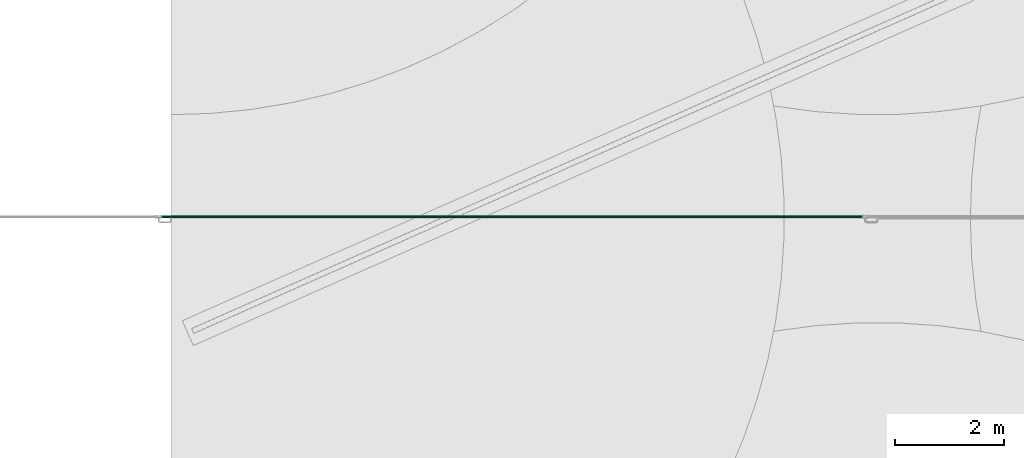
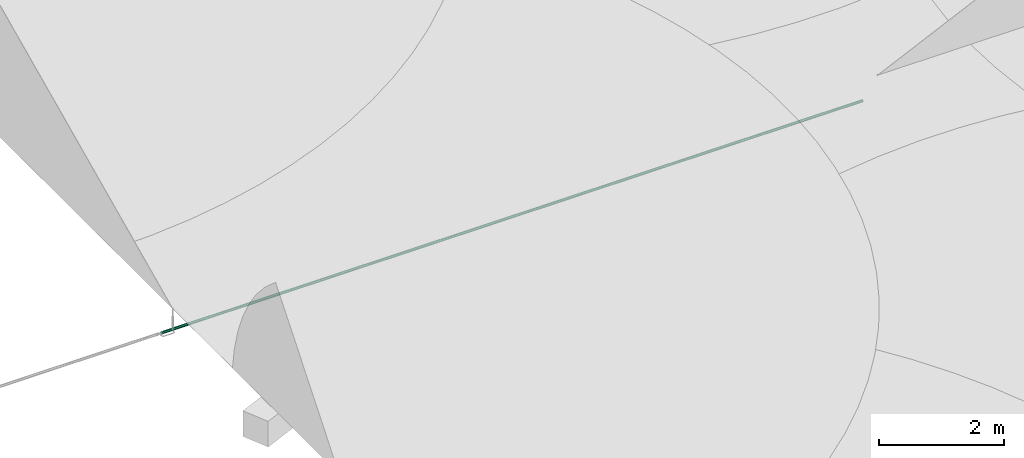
# One storey, part 17 of 166: 1 flow segment.
"""IFC2X3 building model written with IfcOpenShell, lengths in metres."""

from ifc_helpers import new_model, entity, si_unit, converted_unit, direction, frame, frame_2d, origin, place, context, subcontext, project, spatial, circle, extrude, type_object, element, save


model = new_model("IFC2X3")

# Units and contexts
model_context = context("Model", 3, precision=1e-05, world=origin(), true_north=direction((6.123233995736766e-17, 1.0)))
body_context = subcontext(model_context, "Body", "Model", "MODEL_VIEW")
ifc_project = project(units=[si_unit("LENGTHUNIT", "METRE"), converted_unit("PLANEANGLEUNIT", "DEGREE", entity("IfcPlaneAngleMeasure", 0.017453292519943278), si_unit("PLANEANGLEUNIT", "RADIAN"), dimensions=[0, 0, 0, 0, 0, 0, 0]), si_unit("AREAUNIT", "SQUARE_METRE")], contexts=[model_context])

# Site, building, storey
site_placement = place(None, origin())
site = spatial("IfcSite", under=ifc_project, at=site_placement, Name="Default", CompositionType="ELEMENT")
building_placement = place(site_placement, origin())
building = spatial("IfcBuilding", under=site, at=building_placement, Name="CASA DE ACOLHIDA PARA IDOSOS", CompositionType="ELEMENT")
storey_placement = place(building_placement, frame((0.0, 0.0, -1.7499999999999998)))
storey = spatial("IfcBuildingStorey", under=building, at=storey_placement, Name="IMPLANTAÇÃO DRENAGEM", CompositionType="ELEMENT", Elevation=-1.7499999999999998)

# Flow segment
pipe_segment_type = type_object("IfcPipeSegmentType", Name="Tipos de tubos:AF_Tubo Marrom Soldável", PredefinedType="NOTDEFINED")
flow_segment_placement = place(storey_placement, origin())
element("IfcFlowSegment", 1, at=flow_segment_placement, inside=storey, type_object=pipe_segment_type, Name="Tipos de tubos:AF_Tubo Marrom Soldável", ObjectType="Tipos de tubos:AF_Tubo Marrom Soldável", context=body_context, shape_type="SweptSolid", body=[
    extrude(circle(Radius=0.025, at=frame_2d((0.0, -2.707167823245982e-16), x_axis=(1.0, 0.0))), frame((-44.95834889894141, 36.05494207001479, -0.19999999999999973), z_axis=(1.0, 0.0, 0.0), x_axis=(0.0, -1.0, 0.0)), (0.0, 0.0, 1.0), 12.934799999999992),
])

save(model, "model.ifc")
